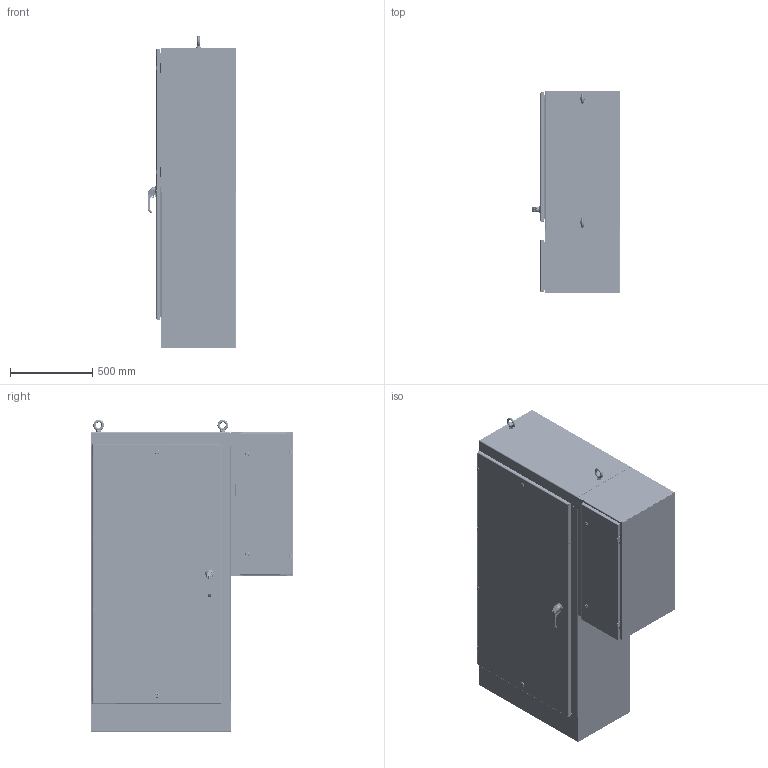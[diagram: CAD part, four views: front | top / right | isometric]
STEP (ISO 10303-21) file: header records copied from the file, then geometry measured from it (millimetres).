
FILE_DESCRIPTION((''),'2;1');
FILE_NAME('MODEL-425_ASM','2024-08-12T12:53:46',('joshi'),('SAGINAW CONTROL & ENGINEERING'),'CREO PARAMETRIC BY PTC INC, 2021284','CREO PARAMETRIC BY PTC INC, 2021284','');
FILE_SCHEMA(('AUTOMOTIVE_DESIGN { 1 0 10303 214 1 1 1 1 }'));
Length unit declared in the file: inch
Products named in the file (143): MODEL-425-R-SD; MODEL-425-BTM; MODEL-425-TP; MODEL-425-L-SD; MODEL-425-DR; 100837; 111267; 100882; 100957_SCREW_MTG; 100957_PADLOCK_CATCH; 100957_SCREW_LARGE; 100957_INSERT_SHAFT; 100957_INSERT_PH; 100957_GASKET; 100957_O-RING; 100957_BASE; 100957_SPRING; 100957_HANDLE; 100957_CAM_SHAFT; 100957_HANDLE_ASM; 100957_CAM_ADAPTER; 100957_EARTH_NUT; 100957_FLANGE_NUT; 100957_CAM_NUT; 100957_ASM; 102237; 100030; 102237_ASM; MODEL-425-ROD-UPR; 128146; 128145; 128144; 102482; MODEL-425-ROD-UPR_ASM; 128143; 112504; MODEL-425-ROD-LWR; MODEL-425-ROD-LWR_ASM; MODEL-425-PR-GSKT; 113885_SHAFT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
Assembly tree (267 placements, depth 5):
  MODEL-425_ASM
    MODEL-425-R-SD
    MODEL-425-BTM
    MODEL-425-TP
    MODEL-425-L-SD
    MODEL-425-DOOR-ASSY_ASM
      MODEL-425-DR
      100837  x7
      111267
      100882  x12
      100957_ASM
        100957_SCREW_MTG
        100957_PADLOCK_CATCH
        100957_SCREW_LARGE  x2
        100957_INSERT_SHAFT
        100957_INSERT_PH
        100957_GASKET
        100957_O-RING
        100957_BASE
        100957_SPRING
        100957_HANDLE_ASM
          100957_HANDLE
          100957_CAM_SHAFT
        100957_CAM_ADAPTER
        100957_EARTH_NUT
        100957_FLANGE_NUT
        100957_CAM_NUT
      102237_ASM
        102237
        100030  x2
      MODEL-425-ROD-UPR_ASM
        MODEL-425-ROD-UPR
        128146
        128145
        128144
        102482  x2
      128143  x2
      112504  x2
      MODEL-425-ROD-LWR_ASM
        MODEL-425-ROD-LWR
        128146
        128145
        128144
        102482  x2
      MODEL-425-PR-GSKT
      113885_ASM  x2
        113885_SHAFT
        113885_INSERT
        113885_CAM_30MM
        113885_NUT
        113885_SCREW
      128258_ASM  x4
        128258
      126395  x4
      102483  x4
      101383_ASM  x4
        101383
        101383-STUD
      101221  x4
    100837  x6
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Bounding box: 535.27 x 1231.9 x 1903.6 mm (x, y, z)
Volume: 25442209.3 mm3; surface area: 19549420.4 mm2
Topology: 266 solids, 266 shells, 20307 faces, 51855 edges, 32159 vertices
Faces by surface type: plane 7488, bspline 5123, cylinder 4791, torus 1411, cone 952, sphere 512, extrusion 30
Entity records: 508758 total; most frequent: CARTESIAN_POINT 186085, ORIENTED_EDGE 47446, DIRECTION 44596, PRESENTATION_STYLE_ASSIGNMENT 24676, STYLED_ITEM 24120, EDGE_CURVE 23723, CURVE_STYLE 23351, AXIS2_PLACEMENT_3D 16646
